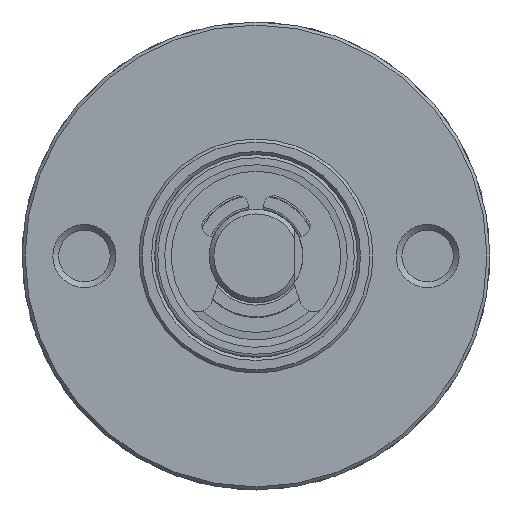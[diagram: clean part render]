
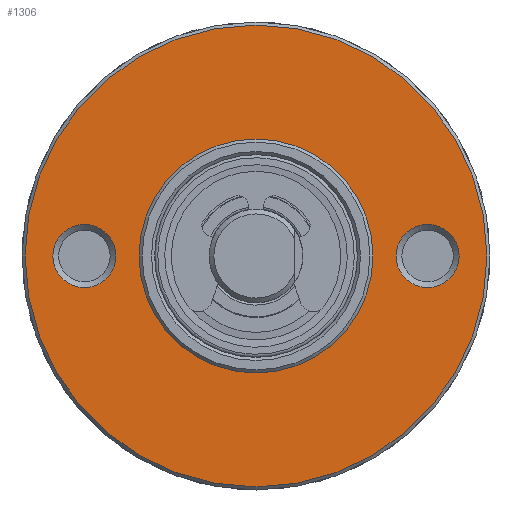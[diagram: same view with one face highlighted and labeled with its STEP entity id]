
A CAD part, front view. The second image highlights one B-rep face of the part: STEP entity #1306.
In plain terms, the highlighted planar face has unit normal (0, -1, 0).
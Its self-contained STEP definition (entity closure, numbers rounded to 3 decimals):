
#59 = DIRECTION ( 'NONE',  ( 0., -1., 0. ) ) ;
#115 = CARTESIAN_POINT ( 'NONE',  ( 0., 0., 14.8 ) ) ;
#188 = CIRCLE ( 'NONE', #2490, 2.025 ) ;
#259 = CARTESIAN_POINT ( 'NONE',  ( 11., 0., 0. ) ) ;
#297 = CARTESIAN_POINT ( 'NONE',  ( 0., 0., 0. ) ) ;
#476 = EDGE_LOOP ( 'NONE', ( #1312 ) ) ;
#598 = VERTEX_POINT ( 'NONE', #1943 ) ;
#837 = DIRECTION ( 'NONE',  ( 0., 0., -1. ) ) ;
#906 = CIRCLE ( 'NONE', #1177, 2.025 ) ;
#987 = ORIENTED_EDGE ( 'NONE', *, *, #4276, .T. ) ;
#1067 = DIRECTION ( 'NONE',  ( 0., -1., 0. ) ) ;
#1074 = CARTESIAN_POINT ( 'NONE',  ( 0., 0., 0. ) ) ;
#1159 = AXIS2_PLACEMENT_3D ( 'NONE', #2152, #3457, #837 ) ;
#1163 = FACE_BOUND ( 'NONE', #476, .T. ) ;
#1177 = AXIS2_PLACEMENT_3D ( 'NONE', #3381, #1067, #1352 ) ;
#1217 = EDGE_LOOP ( 'NONE', ( #1581 ) ) ;
#1246 = DIRECTION ( 'NONE',  ( 0., 0., 1. ) ) ;
#1306 = ADVANCED_FACE ( 'NONE', ( #2534, #1163, #3862, #2176 ), #3289, .T. ) ;
#1312 = ORIENTED_EDGE ( 'NONE', *, *, #3983, .F. ) ;
#1352 = DIRECTION ( 'NONE',  ( 0., 0., 1. ) ) ;
#1399 = DIRECTION ( 'NONE',  ( 0., 0., 1. ) ) ;
#1561 = DIRECTION ( 'NONE',  ( 0., -1., 0. ) ) ;
#1581 = ORIENTED_EDGE ( 'NONE', *, *, #2495, .F. ) ;
#1583 = DIRECTION ( 'NONE',  ( 0., -1., 0. ) ) ;
#1677 = AXIS2_PLACEMENT_3D ( 'NONE', #1074, #59, #1399 ) ;
#1854 = EDGE_CURVE ( 'NONE', #2336, #2336, #3419, .T. ) ;
#1943 = CARTESIAN_POINT ( 'NONE',  ( 11., 0., 2.025 ) ) ;
#2090 = CARTESIAN_POINT ( 'NONE',  ( -11., 0., 2.025 ) ) ;
#2152 = CARTESIAN_POINT ( 'NONE',  ( 0., 0., 0. ) ) ;
#2176 = FACE_BOUND ( 'NONE', #3434, .T. ) ;
#2241 = EDGE_LOOP ( 'NONE', ( #987 ) ) ;
#2336 = VERTEX_POINT ( 'NONE', #3973 ) ;
#2382 = CIRCLE ( 'NONE', #1677, 14.8 ) ;
#2490 = AXIS2_PLACEMENT_3D ( 'NONE', #259, #1583, #2951 ) ;
#2495 = EDGE_CURVE ( 'NONE', #598, #598, #188, .T. ) ;
#2534 = FACE_OUTER_BOUND ( 'NONE', #2241, .T. ) ;
#2603 = ORIENTED_EDGE ( 'NONE', *, *, #1854, .T. ) ;
#2951 = DIRECTION ( 'NONE',  ( 0., 0., 1. ) ) ;
#3136 = VERTEX_POINT ( 'NONE', #115 ) ;
#3289 = PLANE ( 'NONE',  #3969 ) ;
#3381 = CARTESIAN_POINT ( 'NONE',  ( -11., 0., 0. ) ) ;
#3419 = CIRCLE ( 'NONE', #1159, 7.5 ) ;
#3434 = EDGE_LOOP ( 'NONE', ( #2603 ) ) ;
#3457 = DIRECTION ( 'NONE',  ( 0., 1., 0. ) ) ;
#3862 = FACE_BOUND ( 'NONE', #1217, .T. ) ;
#3969 = AXIS2_PLACEMENT_3D ( 'NONE', #297, #1561, #1246 ) ;
#3973 = CARTESIAN_POINT ( 'NONE',  ( 0., 0., -7.5 ) ) ;
#3983 = EDGE_CURVE ( 'NONE', #4141, #4141, #906, .T. ) ;
#4141 = VERTEX_POINT ( 'NONE', #2090 ) ;
#4276 = EDGE_CURVE ( 'NONE', #3136, #3136, #2382, .T. ) ;
